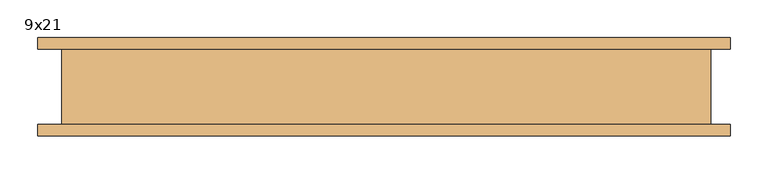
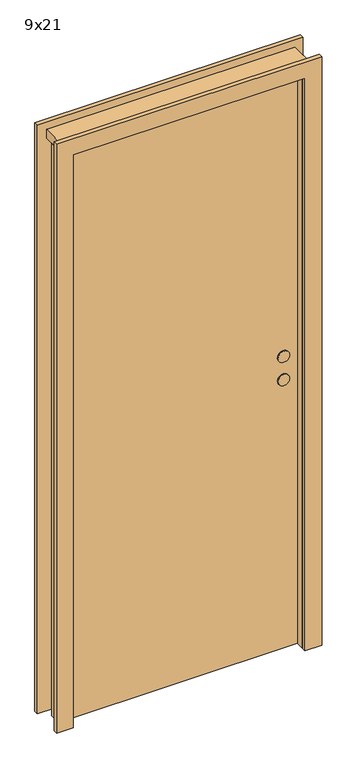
"""IFC4 building model written with IfcOpenShell, lengths in millimetres: door geometry, Innerdor Skyvedor Glatt : 9x21."""

import ifcopenshell
import ifcopenshell.guid

model = None  # the IFC model being written
_history = None  # IfcOwnerHistory: only IFC2X3 demands one
_inside = {}  # id of a spatial element -> (the spatial element, [elements in it])
_under = {}  # id of a project, library or spatial element -> (it, [spatial elements below it])
_declared = {}  # id of a project -> (the project, [libraries it declares])
_typed = {}  # id of a type object -> (the type object, [elements of that type])
_made_of = {}  # id of a material, layer set ... -> (it, [elements and type objects made of it])


def new_model(schema):
    """Start an empty IFC model of exactly this schema.

    Asked for "IFC4X3", IfcOpenShell would pick the latest addendum, in which some entities
    have other attributes; the version numbers below select the first issue.
    IFC2X3 requires an IfcOwnerHistory on every rooted entity: one is made here for all.
    """
    global model, _history
    if schema == "IFC4X3":
        model = ifcopenshell.file(schema_version=(4, 3, 0, 0))
    else:
        model = ifcopenshell.file(schema=schema)
    _inside.clear()
    _under.clear()
    _declared.clear()
    _typed.clear()
    _made_of.clear()
    _history = None
    if model.schema == "IFC2X3":
        org = make("IfcOrganization", Name="unknown")
        user = make(
            "IfcPersonAndOrganization",
            ThePerson=make("IfcPerson", FamilyName="unknown"),
            TheOrganization=org,
        )
        app = make(
            "IfcApplication",
            ApplicationDeveloper=org,
            Version="unknown",
            ApplicationFullName="unknown",
            ApplicationIdentifier="unknown",
        )
        _history = make(
            "IfcOwnerHistory",
            OwningUser=user,
            OwningApplication=app,
            ChangeAction="ADDED",
            CreationDate=0,
        )
    return model


def make(cls, **values):
    """One entity of the class cls with the attributes given. An attribute that is None is left unset."""
    return model.create_entity(
        cls, **{name: value for name, value in values.items() if value is not None}
    )


def rooted(cls, **values):
    """An entity with a GlobalId (a new one), such as an element, a storey or a relation."""
    return make(cls, GlobalId=ifcopenshell.guid.new(), OwnerHistory=_history, **values)


def si_unit(unit_type, name, prefix=None):
    """IfcSIUnit, for example si_unit("LENGTHUNIT", "METRE", prefix="MILLI")."""
    return make("IfcSIUnit", UnitType=unit_type, Prefix=prefix, Name=name)


def assignment(units):
    """IfcUnitAssignment: the units of a project."""
    return None if units is None else make("IfcUnitAssignment", Units=units)


def point(xyz):
    """IfcCartesianPoint."""
    return None if xyz is None else make("IfcCartesianPoint", Coordinates=xyz)


def direction(xyz):
    """IfcDirection."""
    return None if xyz is None else make("IfcDirection", DirectionRatios=xyz)


def frame(location, z_axis=None, x_axis=None):
    """IfcAxis2Placement3D, a coordinate frame: its origin and axes. An axis left out is left unset."""
    return make(
        "IfcAxis2Placement3D",
        Location=point(location),
        Axis=direction(z_axis),
        RefDirection=direction(x_axis),
    )


def frame_2d(location, x_axis=None):
    """IfcAxis2Placement2D, a coordinate frame in the plane: its origin and x axis."""
    return make(
        "IfcAxis2Placement2D", Location=point(location), RefDirection=direction(x_axis)
    )


def origin():
    """The frame at (0, 0, 0) with its axes left unset."""
    return frame((0.0, 0.0, 0.0))


def origin_with_axes():
    """The frame at (0, 0, 0) with the z axis (0, 0, 1) and the x axis (1, 0, 0) written out."""
    return frame((0.0, 0.0, 0.0), z_axis=(0.0, 0.0, 1.0), x_axis=(1.0, 0.0, 0.0))


def place(relative_to, where):
    """IfcLocalPlacement: puts the frame where relative to a parent placement (None: the world)."""
    return make(
        "IfcLocalPlacement", PlacementRelTo=relative_to, RelativePlacement=where
    )


def context(
    kind, dimensions, precision=None, world=None, true_north=None, identifier=None
):
    """IfcGeometricRepresentationContext, for example the 3D "Model" context."""
    return make(
        "IfcGeometricRepresentationContext",
        ContextIdentifier=identifier,
        ContextType=kind,
        CoordinateSpaceDimension=dimensions,
        Precision=precision,
        WorldCoordinateSystem=world,
        TrueNorth=true_north,
    )


def project(units=None, contexts=None):
    """IfcProject with its units and contexts."""
    return rooted(
        "IfcProject",
        Name="project",
        RepresentationContexts=contexts,
        UnitsInContext=assignment(units),
    )


def spatial(cls, under=None, at=None, **own):
    """A site, building, storey or space (cls), placed at a placement, below another one or the project."""
    s = rooted(cls, ObjectPlacement=at, **own)
    if under is not None:
        _under.setdefault(under.id(), (under, []))[1].append(s)
    return s


def polyline(points):
    """IfcPolyline through the points."""
    return make("IfcPolyline", Points=[point(p) for p in points])


def circle_curve(where, radius):
    """IfcCircle in the frame where."""
    return make("IfcCircle", Position=where, Radius=radius)


def trimmed(basis, trim1, trim2, sense, master):
    """IfcTrimmedCurve: the piece of a basis curve between two trims."""
    return make(
        "IfcTrimmedCurve",
        BasisCurve=basis,
        Trim1=trim1,
        Trim2=trim2,
        SenseAgreement=sense,
        MasterRepresentation=master,
    )


def segment(curve, same_sense, transition):
    """IfcCompositeCurveSegment."""
    return make(
        "IfcCompositeCurveSegment",
        Transition=transition,
        SameSense=same_sense,
        ParentCurve=curve,
    )


def composite_curve(segments, self_intersect=None):
    """IfcCompositeCurve: segments joined end to end."""
    return make("IfcCompositeCurve", Segments=segments, SelfIntersect=self_intersect)


def outline(outer, holes=None, kind="AREA"):
    """IfcArbitraryClosedProfileDef: a profile drawn as a closed curve; with holes, ...WithVoids."""
    if holes is None:
        return make("IfcArbitraryClosedProfileDef", ProfileType=kind, OuterCurve=outer)
    return make(
        "IfcArbitraryProfileDefWithVoids",
        ProfileType=kind,
        OuterCurve=outer,
        InnerCurves=holes,
    )


def extrude(swept, where, along, depth):
    """IfcExtrudedAreaSolid: the profile swept, set in the frame where, extruded along a direction by depth."""
    return make(
        "IfcExtrudedAreaSolid",
        SweptArea=swept,
        Position=where,
        ExtrudedDirection=direction(along),
        Depth=depth,
    )


def shape(context_of_items, identifier, shape_type, items):
    """IfcShapeRepresentation: the items that make up one representation, for example the "Body"."""
    return make(
        "IfcShapeRepresentation",
        ContextOfItems=context_of_items,
        RepresentationIdentifier=identifier,
        RepresentationType=shape_type,
        Items=items,
    )


def source(mapping_origin, context_of_items, identifier, shape_type, items):
    """IfcRepresentationMap: a shape defined once, which mapped items show again and again."""
    return make(
        "IfcRepresentationMap",
        MappingOrigin=mapping_origin,
        MappedRepresentation=shape(context_of_items, identifier, shape_type, items),
    )


def transform(
    local_origin,
    x_axis=None,
    y_axis=None,
    z_axis=None,
    scale=None,
    scale2=None,
    scale3=None,
    uniform=True,
):
    """IfcCartesianTransformationOperator3D, or its non-uniform kind. x_axis, y_axis, z_axis: its Axis1, 2, 3."""
    if uniform:
        return make(
            "IfcCartesianTransformationOperator3D",
            Axis1=direction(x_axis),
            Axis2=direction(y_axis),
            LocalOrigin=point(local_origin),
            Scale=scale,
            Axis3=direction(z_axis),
        )
    return make(
        "IfcCartesianTransformationOperator3DnonUniform",
        Axis1=direction(x_axis),
        Axis2=direction(y_axis),
        LocalOrigin=point(local_origin),
        Scale=scale,
        Axis3=direction(z_axis),
        Scale2=scale2,
        Scale3=scale3,
    )


def mapped(mapping_source, mapping_target):
    """IfcMappedItem: shows the shape of a source again, moved by a transform."""
    return make(
        "IfcMappedItem", MappingSource=mapping_source, MappingTarget=mapping_target
    )


def made_of(thing, what):
    """Note that an element or type object is made of a material, layer set ...; save() writes the relation."""
    if what is not None:
        _made_of.setdefault(what.id(), (what, []))[1].append(thing)
    return thing


def element(
    cls,
    number,
    at=None,
    inside=None,
    cuts=None,
    type_object=None,
    material=None,
    context=None,
    identifier="Body",
    shape_type=None,
    held_by="IfcProductDefinitionShape",
    body=None,
    shapes=None,
    **own,
):
    """One element of the class cls, such as IfcWall. Its Tag is "e" and its number.

    at: its placement. inside: the storey or other place that contains it. cuts: it is an
    opening in that element (IfcRelVoidsElement). A single representation is given by context,
    identifier, shape_type and body (its items); several are given by shapes. held_by: the class
    of the entity that holds the representations. save() writes the other relations.
    """
    e = rooted(cls, Tag="e%d" % number, ObjectPlacement=at, **own)
    if body is not None:
        shapes = [shape(context, identifier, shape_type, body)]
    if shapes is not None:
        e.Representation = make(held_by, Representations=shapes)
    if inside is not None:
        _inside.setdefault(inside.id(), (inside, []))[1].append(e)
    if cuts is not None:
        rooted(
            "IfcRelVoidsElement", RelatingBuildingElement=cuts, RelatedOpeningElement=e
        )
    if type_object is not None:
        _typed.setdefault(type_object.id(), (type_object, []))[1].append(e)
    return made_of(e, material)


def aggregate(whole, parts):
    """IfcRelAggregates: a whole, such as a stair, and the parts it consists of."""
    return rooted("IfcRelAggregates", RelatingObject=whole, RelatedObjects=parts)


def save(model, path):
    """Write the relations noted so far, then the file.

    IfcRelAggregates (storeys below a building ...), IfcRelContainedInSpatialStructure (elements
    in a storey), IfcRelDefinesByType, IfcRelAssociatesMaterial and IfcRelDeclares: one each for
    every whole, place, type object, material and project.
    """
    for whole, parts in _under.values():
        aggregate(whole, parts)
    for where, things in _inside.values():
        rooted(
            "IfcRelContainedInSpatialStructure",
            RelatedElements=things,
            RelatingStructure=where,
        )
    for kind, things in _typed.values():
        rooted("IfcRelDefinesByType", RelatedObjects=things, RelatingType=kind)
    for what, things in _made_of.values():
        rooted("IfcRelAssociatesMaterial", RelatedObjects=things, RelatingMaterial=what)
    for by, libraries in _declared.values():
        rooted("IfcRelDeclares", RelatingContext=by, RelatedDefinitions=libraries)
    model.write(path)


def door_9x21_88a7b2ae(model_context):
    return source(origin(), model_context, "Body", "SweptSolid", [
        extrude(outline(polyline([(403.0, -20.0), (-423.0, -20.0), (-423.0, 20.0), (403.0, 20.0), (403.0, -20.0)])), origin_with_axes(), (0.0, 0.0, 1.0), 2088.0),
        extrude(outline(composite_curve([segment(trimmed(circle_curve(frame_2d((980.0, 353.0)), 20.0), [point((980.0, 373.0))], [point((980.0, 333.0))], False, "CARTESIAN"), True, "CONTINUOUS"), segment(trimmed(circle_curve(frame_2d((980.0, 353.0)), 20.0), [point((980.0, 333.0))], [point((980.0, 373.0))], False, "CARTESIAN"), True, "CONTINUOUS")], self_intersect=False)), frame((0.0, -25.0, 0.0), z_axis=(0.0, 1.0, 0.0), x_axis=(0.0, 0.0, 1.0)), (0.0, 0.0, 1.0), 5.0),
        extrude(outline(composite_curve([segment(trimmed(circle_curve(frame_2d((1065.0, 353.0)), 20.0), [point((1065.0, 373.0))], [point((1065.0, 333.0))], False, "CARTESIAN"), True, "CONTINUOUS"), segment(trimmed(circle_curve(frame_2d((1065.0, 353.0)), 20.0), [point((1065.0, 333.0))], [point((1065.0, 373.0))], False, "CARTESIAN"), True, "CONTINUOUS")], self_intersect=False)), frame((0.0, -25.0, 0.0), z_axis=(0.0, 1.0, 0.0), x_axis=(0.0, 0.0, 1.0)), (0.0, 0.0, 1.0), 5.0),
        extrude(outline(composite_curve([segment(trimmed(circle_curve(frame_2d((980.0, 353.0)), 20.0), [point((980.0, 373.0))], [point((980.0, 333.0))], False, "CARTESIAN"), True, "CONTINUOUS"), segment(trimmed(circle_curve(frame_2d((980.0, 353.0)), 20.0), [point((980.0, 333.0))], [point((980.0, 373.0))], False, "CARTESIAN"), True, "CONTINUOUS")], self_intersect=False)), frame((0.0, 20.0, 0.0), z_axis=(0.0, 1.0, 0.0), x_axis=(0.0, 0.0, 1.0)), (0.0, 0.0, 1.0), 5.0),
        extrude(outline(composite_curve([segment(trimmed(circle_curve(frame_2d((1065.0, 353.0)), 20.0), [point((1065.0, 373.0))], [point((1065.0, 333.0))], False, "CARTESIAN"), True, "CONTINUOUS"), segment(trimmed(circle_curve(frame_2d((1065.0, 353.0)), 20.0), [point((1065.0, 333.0))], [point((1065.0, 373.0))], False, "CARTESIAN"), True, "CONTINUOUS")], self_intersect=False)), frame((0.0, 20.0, 0.0), z_axis=(0.0, 1.0, 0.0), x_axis=(0.0, 0.0, 1.0)), (0.0, 0.0, 1.0), 5.0),
        extrude(outline(polyline([(0.0, 403.0), (0.0, 435.0), (2120.0, 435.0), (2120.0, -423.0), (2088.0, -423.0), (2088.0, 403.0), (0.0, 403.0)])), frame((0.0, -50.0, 0.0), z_axis=(0.0, 1.0, 0.0), x_axis=(0.0, 0.0, 1.0)), (0.0, 0.0, 1.0), 100.0),
        extrude(outline(polyline([(0.0, 403.0), (0.0, 461.0), (2146.0, 461.0), (2146.0, -455.0), (0.0, -455.0), (0.0, -397.0), (2088.0, -397.0), (2088.0, 403.0), (0.0, 403.0)])), frame((0.0, 50.0, 0.0), z_axis=(0.0, 1.0, 0.0), x_axis=(0.0, 0.0, 1.0)), (0.0, 0.0, 1.0), 15.0),
        extrude(outline(polyline([(0.0, 403.0), (0.0, 461.0), (2146.0, 461.0), (2146.0, -455.0), (0.0, -455.0), (0.0, -397.0), (2088.0, -397.0), (2088.0, 403.0), (0.0, 403.0)])), frame((0.0, -65.0, 0.0), z_axis=(0.0, 1.0, 0.0), x_axis=(0.0, 0.0, 1.0)), (0.0, 0.0, 1.0), 15.0),
    ])


if __name__ == "__main__":
    model = new_model("IFC4")
    model_context = context("Model", 3, world=origin())
    ifc_project = project(units=[si_unit("LENGTHUNIT", "METRE", prefix="MILLI")], contexts=[model_context])
    site = spatial("IfcSite", under=ifc_project)
    building = spatial("IfcBuilding", under=site)
    placement = place(None, origin())
    door_9x21_shape = door_9x21_88a7b2ae(model_context)
    element("IfcDoor", 1, ObjectType="Innerdor Skyvedor Glatt : 9x21", at=placement, inside=building, context=model_context, shape_type="MappedRepresentation", body=[
        mapped(door_9x21_shape, transform((0.0, 0.0, 0.0), x_axis=(1.0, 0.0, 0.0), y_axis=(0.0, 1.0, 0.0), z_axis=(0.0, 0.0, 1.0))),
    ])
    save(model, "model.ifc")
